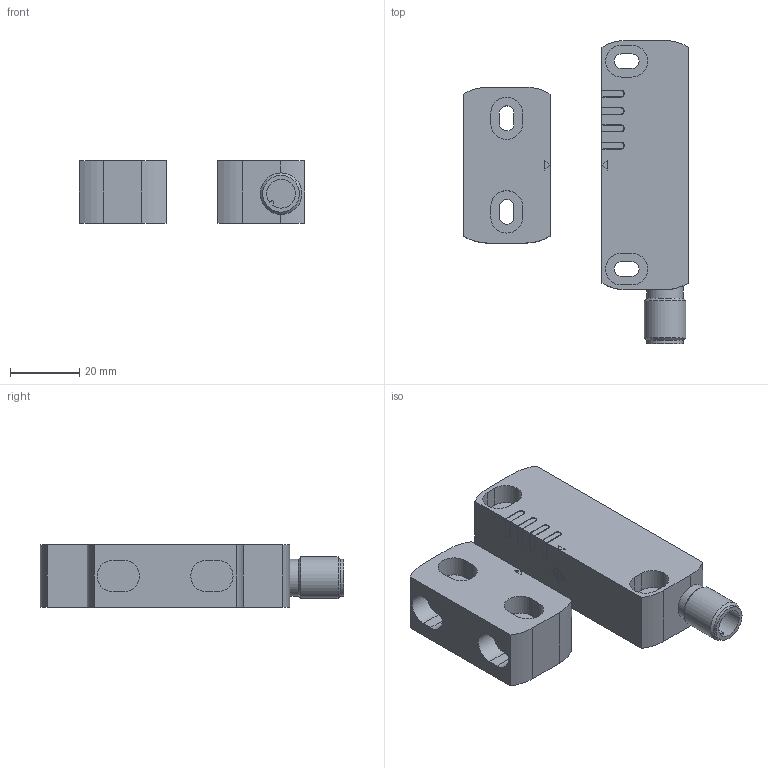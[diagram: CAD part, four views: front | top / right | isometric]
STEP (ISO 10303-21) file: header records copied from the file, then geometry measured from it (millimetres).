
FILE_DESCRIPTION(/* description */ ('STEP AP203'),/* implementation_level */ '2;1');
FILE_NAME(/* name */ 'MN708S',/* time_stamp */ '2025-04-08T11:53:58+02:00',/* author */ ('License CC BY-ND 4.0'),/* organization */ ('CADENAS'),/* preprocessor_version */ 'ST-DEVELOPER v19.3',/* originating_system */ 'PARTsolutions',/* authorisation */ ' ');
FILE_SCHEMA (('CONFIG_CONTROL_DESIGN'));
Length unit declared in the file: millimetre
Products named in the file (3): MN708S; P_MZ_100_0997_P1; P_MZ_100_0997_P2
Assembly tree (2 placements, depth 2):
  MN708S
    P_MZ_100_0997_P1
    P_MZ_100_0997_P2
Bounding box: 65 x 87.5 x 18 mm (x, y, z)
Volume: 48543.6 mm3; surface area: 14389.4 mm2
Topology: 2 solids, 2 shells, 215 faces, 572 edges, 380 vertices
Faces by surface type: plane 140, cylinder 73, cone 2
Full cylindrical faces by diameter (mm): 10.6 x2, 12 x1
Entity records: 7720 total; most frequent: CARTESIAN_POINT 1172, DIRECTION 1147, ORIENTED_EDGE 1132, EDGE_CURVE 566, LINE 419, VECTOR 419, VERTEX_POINT 379, AXIS2_PLACEMENT_3D 364
